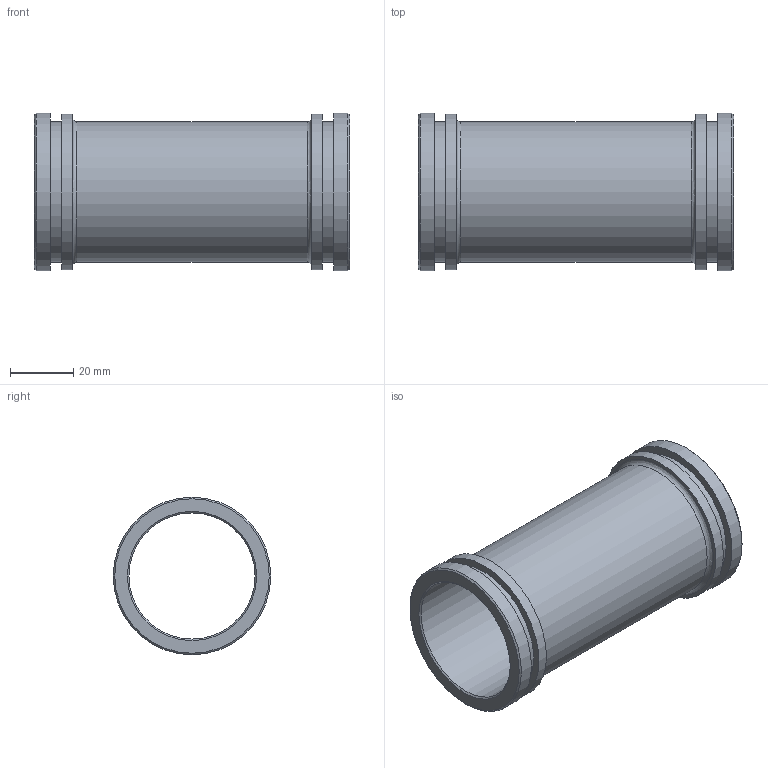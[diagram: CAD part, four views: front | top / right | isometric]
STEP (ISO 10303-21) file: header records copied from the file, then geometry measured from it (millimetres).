
FILE_DESCRIPTION((''),'2;1');
FILE_NAME('N:\CAD\ARCHIV\5350 (-999)\Standardhülsen\5350.040.100\Kundenteil 3D\5350.040.100 Kunden.stp','2008-08-18T13:45:18',('hwalkhoff'),(''),'Autodesk Inventor 11','Autodesk Inventor 11','');
FILE_SCHEMA(('AUTOMOTIVE_DESIGN { 1 0 10303 214 1 1 1 1 }'));
Length unit declared in the file: millimetre
Products named in the file (1): Hülse für Kunden
Bounding box: 100 x 50 x 50 mm (x, y, z)
Volume: 36622.3 mm3; surface area: 30133.1 mm2
Topology: 1 solids, 1 shells, 22 faces, 36 edges, 22 vertices
Faces by surface type: cylinder 8, plane 8, cone 4, bspline 2
Full cylindrical faces by diameter (mm): 40 x1, 44.5 x1, 44.76 x2, 49.5 x2, 50 x2
Entity records: 551 total; most frequent: CARTESIAN_POINT 155, DIRECTION 86, ORIENTED_EDGE 44, EDGE_LOOP 44, AXIS2_PLACEMENT_3D 43, VERTEX_POINT 22, CIRCLE 22, EDGE_CURVE 22
